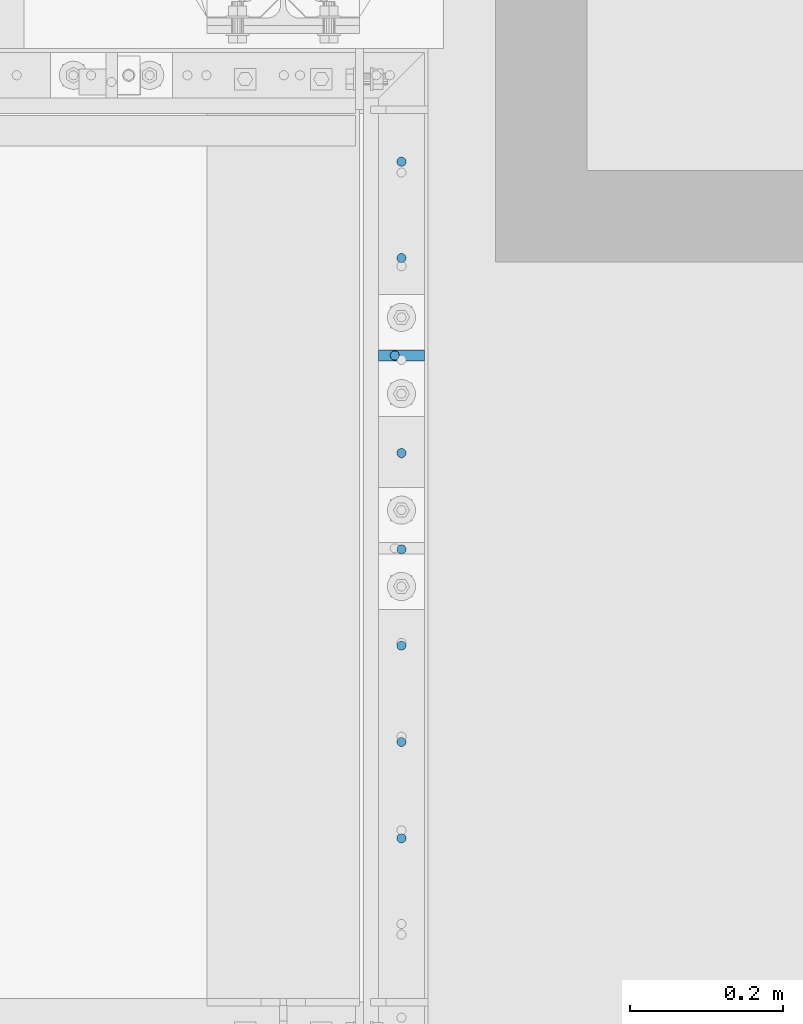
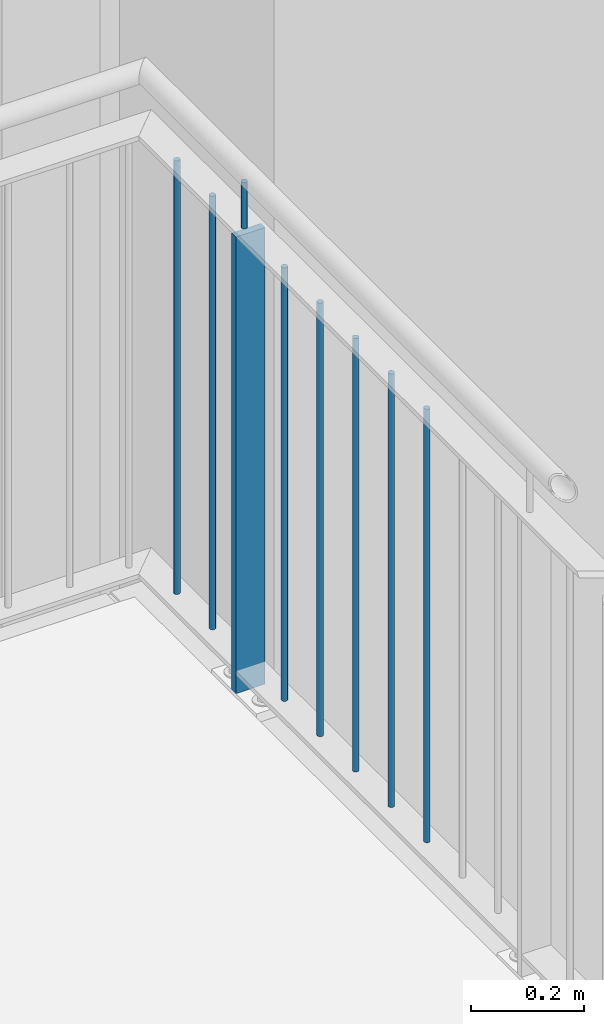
# One storey, part 100 of 825: 9 columns.
"""IFC2X3 building model written with IfcOpenShell, lengths in millimetres."""

from ifc_helpers import new_model, entity, si_unit, converted_unit, frame, origin, origin_with_axes, origin_2d, place, context, project, spatial, rectangle, circle, extrude, clip, halfspace, material, element, save


model = new_model("IFC2X3")

# Units and contexts
model_context = context("Model", 3, precision=1e-09, world=origin_with_axes())
ifc_project = project(units=[si_unit("LENGTHUNIT", "METRE", prefix="MILLI"), si_unit("AREAUNIT", "SQUARE_METRE"), si_unit("VOLUMEUNIT", "CUBIC_METRE"), converted_unit("PLANEANGLEUNIT", "DEGREE", entity("IfcPlaneAngleMeasure", 0.01745329), si_unit("PLANEANGLEUNIT", "RADIAN"), dimensions=[0, 0, 0, 0, 0, 0, 0])], contexts=[model_context])

# Site, building, storey
site_placement = place(None, origin_with_axes())
site = spatial("IfcSite", under=ifc_project, at=site_placement, Name="Cnopf'sche Kinderklinik", CompositionType="ELEMENT")
building_placement = place(site_placement, origin_with_axes())
building = spatial("IfcBuilding", under=site, at=building_placement, Name="Struktur 1", CompositionType="ELEMENT")
storey_placement = place(building_placement, origin_with_axes())
storey = spatial("IfcBuildingStorey", under=building, at=storey_placement, Name="Default Storey", CompositionType="ELEMENT", Elevation=0.0)

# Columns
ifc_material = material(Name="S235JR")
column_1_placement = place(None, frame((9021.713402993, 6989.429031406, 3220.775923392), z_axis=(0.0, 0.0, 1.0), x_axis=(0.0, -1.0, 0.0)))
element("IfcColumn", 1, at=column_1_placement, inside=storey, material=ifc_material, Name="Railing_Post_Landing#4", ObjectType="Railing_Post_Landing#4", context=model_context, shape_type="Clipping", body=[
    clip(clip(extrude(rectangle(XDim=15.0, YDim=60.0, at=origin_2d()), origin(), (0.0, 0.0, -1.0), 1070.646584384), halfspace(frame((6989.429031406, -9021.713402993, -1019.722292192), z_axis=(0.0, 0.0, 1.0), x_axis=(0.0, 1.0, 0.0)), True)), halfspace(frame((6989.429031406, -9021.713402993, -30.924292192), z_axis=(0.0, 0.0, -1.0), x_axis=(0.0, -1.0, 0.0)), True)),
])
column_2_placement = place(None, frame((9021.713402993, 7243.448551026, 3203.337912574), z_axis=(0.0, 0.0, 1.0), x_axis=(0.0, -1.0, 0.0)))
element("IfcColumn", 2, at=column_2_placement, inside=storey, material=ifc_material, Name="Railing_Picket_Landing#26", ObjectType="Railing_Picket_Landing#26", context=model_context, shape_type="Clipping", body=[
    clip(clip(extrude(circle(Radius=6.0, at=origin_2d()), origin(), (0.0, 0.0, -1.0), 965.770562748), halfspace(frame((7243.448551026, -9021.713402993, -13.486281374), z_axis=(0.0, 0.0, -1.0), x_axis=(0.0, -1.0, 0.0)), True)), halfspace(frame((7243.448551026, -9021.713402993, -952.284281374), z_axis=(0.0, 0.0, 1.0), x_axis=(0.0, 1.0, 0.0)), True)),
])
column_3_placement = place(None, frame((9021.713402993, 7117.189031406, 3203.337912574), z_axis=(0.0, 0.0, 1.0), x_axis=(0.0, -1.0, 0.0)))
element("IfcColumn", 3, at=column_3_placement, inside=storey, material=ifc_material, Name="Railing_Picket_Landing#27", ObjectType="Railing_Picket_Landing#27", context=model_context, shape_type="Clipping", body=[
    clip(clip(extrude(circle(Radius=6.0, at=origin_2d()), origin(), (0.0, 0.0, -1.0), 965.770562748), halfspace(frame((7117.189031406, -9021.713402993, -13.486281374), z_axis=(0.0, 0.0, -1.0), x_axis=(0.0, -1.0, 0.0)), True)), halfspace(frame((7117.189031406, -9021.713402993, -952.284281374), z_axis=(0.0, 0.0, 1.0), x_axis=(0.0, 1.0, 0.0)), True)),
])
column_4_placement = place(None, frame((9021.713402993, 6861.669031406, 3203.337912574), z_axis=(0.0, 0.0, 1.0), x_axis=(0.0, -1.0, 0.0)))
element("IfcColumn", 4, at=column_4_placement, inside=storey, material=ifc_material, Name="Railing_Picket_Landing#28", ObjectType="Railing_Picket_Landing#28", context=model_context, shape_type="Clipping", body=[
    clip(clip(extrude(circle(Radius=6.0, at=origin_2d()), origin(), (0.0, 0.0, -1.0), 965.770562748), halfspace(frame((6861.669031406, -9021.713402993, -13.486281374), z_axis=(0.0, 0.0, -1.0), x_axis=(0.0, -1.0, 0.0)), True)), halfspace(frame((6861.669031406, -9021.713402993, -952.284281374), z_axis=(0.0, 0.0, 1.0), x_axis=(0.0, 1.0, 0.0)), True)),
])
column_5_placement = place(None, frame((9021.713402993, 6735.409511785, 3203.337912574), z_axis=(0.0, 0.0, 1.0), x_axis=(0.0, -1.0, 0.0)))
element("IfcColumn", 5, at=column_5_placement, inside=storey, material=ifc_material, Name="Railing_Picket_Landing#29", ObjectType="Railing_Picket_Landing#29", context=model_context, shape_type="Clipping", body=[
    clip(clip(extrude(circle(Radius=6.0, at=origin_2d()), origin(), (0.0, 0.0, -1.0), 965.770562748), halfspace(frame((6735.409511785, -9021.713402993, -13.486281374), z_axis=(0.0, 0.0, -1.0), x_axis=(0.0, -1.0, 0.0)), True)), halfspace(frame((6735.409511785, -9021.713402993, -952.284281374), z_axis=(0.0, 0.0, 1.0), x_axis=(0.0, 1.0, 0.0)), True)),
])
column_6_placement = place(None, frame((9021.713402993, 6609.149992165, 3203.337912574), z_axis=(0.0, 0.0, 1.0), x_axis=(0.0, -1.0, 0.0)))
element("IfcColumn", 6, at=column_6_placement, inside=storey, material=ifc_material, Name="Railing_Picket_Landing#30", ObjectType="Railing_Picket_Landing#30", context=model_context, shape_type="Clipping", body=[
    clip(clip(extrude(circle(Radius=6.0, at=origin_2d()), origin(), (0.0, 0.0, -1.0), 965.770562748), halfspace(frame((6609.149992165, -9021.713402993, -13.486281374), z_axis=(0.0, 0.0, -1.0), x_axis=(0.0, -1.0, 0.0)), True)), halfspace(frame((6609.149992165, -9021.713402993, -952.284281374), z_axis=(0.0, 0.0, 1.0), x_axis=(0.0, 1.0, 0.0)), True)),
])
column_7_placement = place(None, frame((9021.713402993, 6482.890472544, 3203.337912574), z_axis=(0.0, 0.0, 1.0), x_axis=(0.0, -1.0, 0.0)))
element("IfcColumn", 7, at=column_7_placement, inside=storey, material=ifc_material, Name="Railing_Picket_Landing#31", ObjectType="Railing_Picket_Landing#31", context=model_context, shape_type="Clipping", body=[
    clip(clip(extrude(circle(Radius=6.0, at=origin_2d()), origin(), (0.0, 0.0, -1.0), 965.770562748), halfspace(frame((6482.890472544, -9021.713402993, -13.486281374), z_axis=(0.0, 0.0, -1.0), x_axis=(0.0, -1.0, 0.0)), True)), halfspace(frame((6482.890472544, -9021.713402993, -952.284281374), z_axis=(0.0, 0.0, 1.0), x_axis=(0.0, 1.0, 0.0)), True)),
])
column_8_placement = place(None, frame((9021.713402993, 6356.630952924, 3203.337912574), z_axis=(0.0, 0.0, 1.0), x_axis=(0.0, -1.0, 0.0)))
element("IfcColumn", 8, at=column_8_placement, inside=storey, material=ifc_material, Name="Railing_Picket_Landing#32", ObjectType="Railing_Picket_Landing#32", context=model_context, shape_type="Clipping", body=[
    clip(clip(extrude(circle(Radius=6.0, at=origin_2d()), origin(), (0.0, 0.0, -1.0), 965.770562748), halfspace(frame((6356.630952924, -9021.713402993, -13.486281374), z_axis=(0.0, 0.0, -1.0), x_axis=(0.0, -1.0, 0.0)), True)), halfspace(frame((6356.630952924, -9021.713402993, -952.284281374), z_axis=(0.0, 0.0, 1.0), x_axis=(0.0, 1.0, 0.0)), True)),
])
column_9_placement = place(None, frame((9012.913402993, 6989.429031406, 3308.337912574), z_axis=(0.0, 0.0, 1.0), x_axis=(-1.0, 0.0, 0.0)))
element("IfcColumn", 9, at=column_9_placement, inside=storey, material=ifc_material, Name="Bar#4", ObjectType="Bar#4", context=model_context, shape_type="Clipping", body=[
    clip(clip(extrude(circle(Radius=6.0, at=origin_2d()), origin(), (0.0, 0.0, -1.0), 116.970562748), halfspace(frame((9012.913402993, 6989.429031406, -8.486281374), z_axis=(0.0, 0.0, -1.0), x_axis=(1.0, 0.0, 0.0)), True)), halfspace(frame((9012.913402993, 6989.429031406, -108.484281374), z_axis=(0.0, 0.0, 1.0), x_axis=(-1.0, 0.0, 0.0)), True)),
])

save(model, "model.ifc")
